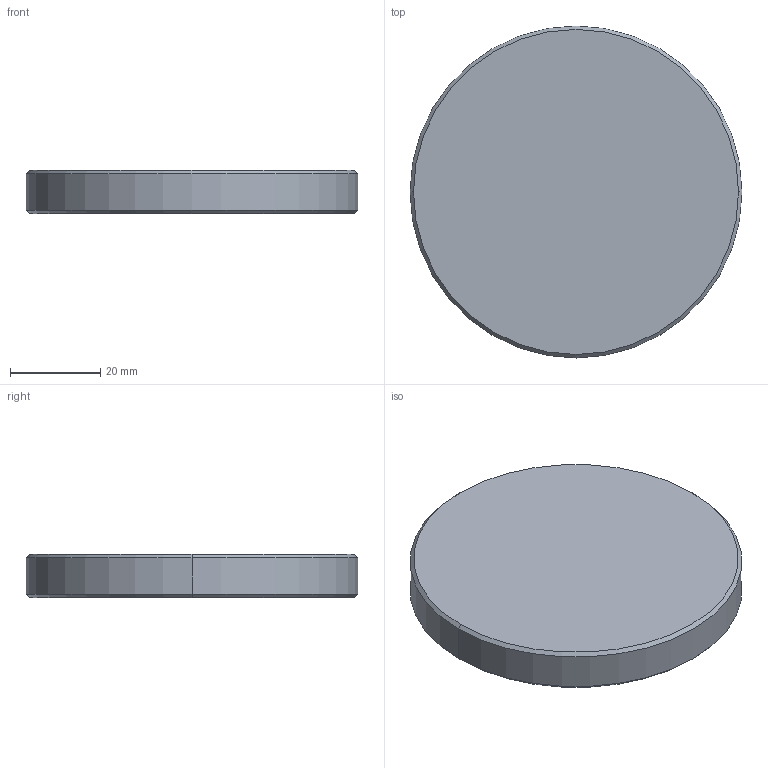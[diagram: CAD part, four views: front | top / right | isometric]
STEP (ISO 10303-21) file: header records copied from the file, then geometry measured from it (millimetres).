
FILE_DESCRIPTION((''),'2;1');
FILE_NAME('RMC-4002','2007-09-27T',('glafferty'),('Pleasant Precision, Inc. (419)675-0556'),'PRO/ENGINEER BY PARAMETRIC TECHNOLOGY CORPORATION, 2006080','PRO/ENGINEER BY PARAMETRIC TECHNOLOGY CORPORATION, 2006080','');
FILE_SCHEMA(('CONFIG_CONTROL_DESIGN'));
Length unit declared in the file: inch
Products named in the file (1): RMC-4002
Bounding box: 73.41 x 73.41 x 9.53 mm (x, y, z)
Volume: 35825.6 mm3; surface area: 10701.4 mm2
Topology: 1 solids, 1 shells, 13 faces, 24 edges, 14 vertices
Faces by surface type: cone 6, cylinder 4, plane 3
Entity records: 364 total; most frequent: DIRECTION 64, CARTESIAN_POINT 51, ORIENTED_EDGE 48, AXIS2_PLACEMENT_3D 27, EDGE_CURVE 24, VERTEX_POINT 14, EDGE_LOOP 14, CIRCLE 14
